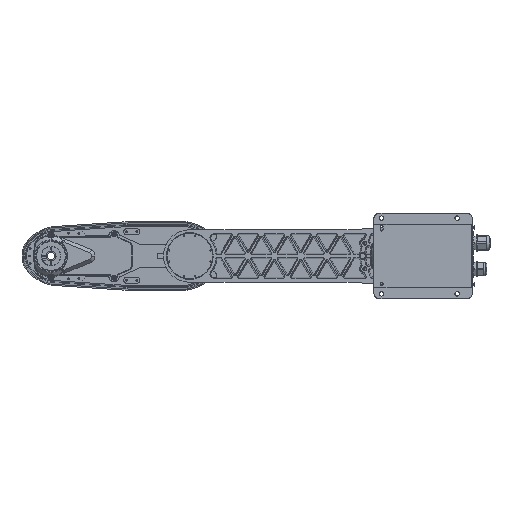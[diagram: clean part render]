
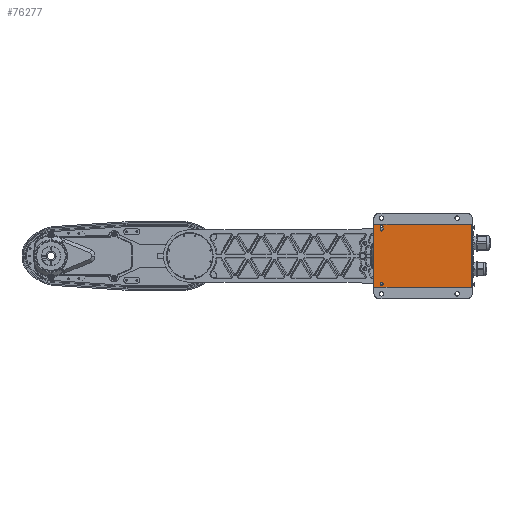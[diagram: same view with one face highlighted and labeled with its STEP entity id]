
A CAD part, front view. The second image highlights one B-rep face of the part: STEP entity #76277.
In plain terms, the highlighted planar face has unit normal (0, -1, 0).
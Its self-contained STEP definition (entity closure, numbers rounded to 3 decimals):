
#7 = ORIENTED_EDGE ( 'NONE', *, *, #47539, .T. ) ;
#1103 = AXIS2_PLACEMENT_3D ( 'NONE', #29106, #48956, #63581 ) ;
#2094 = VERTEX_POINT ( 'NONE', #72128 ) ;
#2254 = FACE_BOUND ( 'NONE', #56998, .T. ) ;
#3834 = CARTESIAN_POINT ( 'NONE',  ( -45., 1., -55. ) ) ;
#4108 = DIRECTION ( 'NONE',  ( 0., 0., -1. ) ) ;
#5278 = CARTESIAN_POINT ( 'NONE',  ( -48., 1., 57.5 ) ) ;
#6801 = EDGE_CURVE ( 'NONE', #48481, #51150, #40840, .T. ) ;
#7600 = LINE ( 'NONE', #16150, #12461 ) ;
#8868 = FACE_OUTER_BOUND ( 'NONE', #58991, .T. ) ;
#9655 = DIRECTION ( 'NONE',  ( 0., 0., -1. ) ) ;
#9773 = DIRECTION ( 'NONE',  ( 0., 0., 1. ) ) ;
#10626 = VERTEX_POINT ( 'NONE', #22793 ) ;
#11586 = LINE ( 'NONE', #17781, #23782 ) ;
#12315 = ORIENTED_EDGE ( 'NONE', *, *, #49098, .T. ) ;
#12461 = VECTOR ( 'NONE', #37443, 1000. ) ;
#15524 = DIRECTION ( 'NONE',  ( 1., 0., 0. ) ) ;
#16150 = CARTESIAN_POINT ( 'NONE',  ( -60., 1., -61.5 ) ) ;
#17781 = CARTESIAN_POINT ( 'NONE',  ( 135., 1., -61.5 ) ) ;
#18414 = EDGE_CURVE ( 'NONE', #65544, #10626, #7600, .T. ) ;
#20249 = LINE ( 'NONE', #84076, #90642 ) ;
#20724 = CIRCLE ( 'NONE', #1103, 3. ) ;
#20828 = ORIENTED_EDGE ( 'NONE', *, *, #72520, .T. ) ;
#21162 = EDGE_CURVE ( 'NONE', #65964, #2094, #20724, .T. ) ;
#22613 = FACE_BOUND ( 'NONE', #83538, .T. ) ;
#22793 = CARTESIAN_POINT ( 'NONE',  ( -60., 1., 61.5 ) ) ;
#23782 = VECTOR ( 'NONE', #53253, 1000. ) ;
#24627 = CIRCLE ( 'NONE', #92469, 3. ) ;
#27047 = VERTEX_POINT ( 'NONE', #38537 ) ;
#28247 = VERTEX_POINT ( 'NONE', #91809 ) ;
#28594 = CARTESIAN_POINT ( 'NONE',  ( -42., 1., 52.5 ) ) ;
#28915 = EDGE_CURVE ( 'NONE', #61868, #27047, #88725, .T. ) ;
#29106 = CARTESIAN_POINT ( 'NONE',  ( -45., 1., 57.5 ) ) ;
#29364 = VECTOR ( 'NONE', #83539, 1000. ) ;
#30617 = VERTEX_POINT ( 'NONE', #64468 ) ;
#33022 = CARTESIAN_POINT ( 'NONE',  ( -45., 1., 52.5 ) ) ;
#33474 = CARTESIAN_POINT ( 'NONE',  ( -60., 1., 61.5 ) ) ;
#33615 = CARTESIAN_POINT ( 'NONE',  ( -45., 1., 52.5 ) ) ;
#33652 = DIRECTION ( 'NONE',  ( 0., 1., 0. ) ) ;
#36485 = ORIENTED_EDGE ( 'NONE', *, *, #37380, .F. ) ;
#36826 = PLANE ( 'NONE',  #39697 ) ;
#37380 = EDGE_CURVE ( 'NONE', #10626, #51150, #48076, .T. ) ;
#37443 = DIRECTION ( 'NONE',  ( 0., 0., 1. ) ) ;
#38537 = CARTESIAN_POINT ( 'NONE',  ( -45., 1., 49.5 ) ) ;
#39697 = AXIS2_PLACEMENT_3D ( 'NONE', #66540, #87332, #15524 ) ;
#40211 = DIRECTION ( 'NONE',  ( 0., 1., 0. ) ) ;
#40529 = DIRECTION ( 'NONE',  ( 0., 1., 0. ) ) ;
#40840 = LINE ( 'NONE', #74508, #48747 ) ;
#41003 = VERTEX_POINT ( 'NONE', #91380 ) ;
#41724 = ORIENTED_EDGE ( 'NONE', *, *, #18414, .F. ) ;
#43021 = AXIS2_PLACEMENT_3D ( 'NONE', #33022, #61811, #90620 ) ;
#43680 = CIRCLE ( 'NONE', #82959, 3. ) ;
#43824 = ORIENTED_EDGE ( 'NONE', *, *, #6801, .T. ) ;
#45653 = EDGE_CURVE ( 'NONE', #48481, #65544, #11586, .T. ) ;
#47539 = EDGE_CURVE ( 'NONE', #2094, #61868, #52721, .T. ) ;
#48076 = LINE ( 'NONE', #33474, #29364 ) ;
#48481 = VERTEX_POINT ( 'NONE', #56861 ) ;
#48747 = VECTOR ( 'NONE', #9773, 1000. ) ;
#48956 = DIRECTION ( 'NONE',  ( 0., 1., 0. ) ) ;
#49098 = EDGE_CURVE ( 'NONE', #30617, #65964, #20249, .T. ) ;
#50293 = EDGE_CURVE ( 'NONE', #28247, #41003, #24627, .T. ) ;
#51018 = ORIENTED_EDGE ( 'NONE', *, *, #21162, .T. ) ;
#51150 = VERTEX_POINT ( 'NONE', #60612 ) ;
#52721 = LINE ( 'NONE', #81504, #73697 ) ;
#53253 = DIRECTION ( 'NONE',  ( -1., 0., 0. ) ) ;
#54921 = DIRECTION ( 'NONE',  ( 0., 0., 1. ) ) ;
#55773 = DIRECTION ( 'NONE',  ( 0., 0., -1. ) ) ;
#56861 = CARTESIAN_POINT ( 'NONE',  ( 135., 1., -61.5 ) ) ;
#56998 = EDGE_LOOP ( 'NONE', ( #66079, #67171, #12315, #51018, #7 ) ) ;
#58991 = EDGE_LOOP ( 'NONE', ( #76873, #43824, #36485, #41724 ) ) ;
#59652 = EDGE_CURVE ( 'NONE', #27047, #30617, #77698, .T. ) ;
#60612 = CARTESIAN_POINT ( 'NONE',  ( 135., 1., 61.5 ) ) ;
#61811 = DIRECTION ( 'NONE',  ( 0., 1., 0. ) ) ;
#61868 = VERTEX_POINT ( 'NONE', #28594 ) ;
#63581 = DIRECTION ( 'NONE',  ( -1., 0., 0. ) ) ;
#64468 = CARTESIAN_POINT ( 'NONE',  ( -48., 1., 52.5 ) ) ;
#65544 = VERTEX_POINT ( 'NONE', #83079 ) ;
#65964 = VERTEX_POINT ( 'NONE', #5278 ) ;
#66079 = ORIENTED_EDGE ( 'NONE', *, *, #28915, .T. ) ;
#66540 = CARTESIAN_POINT ( 'NONE',  ( 135., 1., 61.5 ) ) ;
#67171 = ORIENTED_EDGE ( 'NONE', *, *, #59652, .T. ) ;
#72128 = CARTESIAN_POINT ( 'NONE',  ( -42., 1., 57.5 ) ) ;
#72520 = EDGE_CURVE ( 'NONE', #41003, #28247, #43680, .T. ) ;
#73697 = VECTOR ( 'NONE', #9655, 1000. ) ;
#74508 = CARTESIAN_POINT ( 'NONE',  ( 135., 1., -61.5 ) ) ;
#76277 = ADVANCED_FACE ( 'NONE', ( #8868, #22613, #2254 ), #36826, .F. ) ;
#76873 = ORIENTED_EDGE ( 'NONE', *, *, #45653, .F. ) ;
#77168 = ORIENTED_EDGE ( 'NONE', *, *, #50293, .T. ) ;
#77698 = CIRCLE ( 'NONE', #43021, 3. ) ;
#81504 = CARTESIAN_POINT ( 'NONE',  ( -42., 1., 57.5 ) ) ;
#82959 = AXIS2_PLACEMENT_3D ( 'NONE', #84439, #40529, #4108 ) ;
#83079 = CARTESIAN_POINT ( 'NONE',  ( -60., 1., -61.5 ) ) ;
#83538 = EDGE_LOOP ( 'NONE', ( #20828, #77168 ) ) ;
#83539 = DIRECTION ( 'NONE',  ( 1., 0., 0. ) ) ;
#84076 = CARTESIAN_POINT ( 'NONE',  ( -48., 1., 52.5 ) ) ;
#84439 = CARTESIAN_POINT ( 'NONE',  ( -45., 1., -55. ) ) ;
#87332 = DIRECTION ( 'NONE',  ( 0., 1., 0. ) ) ;
#88725 = CIRCLE ( 'NONE', #91712, 3. ) ;
#90620 = DIRECTION ( 'NONE',  ( 0., 0., -1. ) ) ;
#90642 = VECTOR ( 'NONE', #92038, 1000. ) ;
#91380 = CARTESIAN_POINT ( 'NONE',  ( -45., 1., -58. ) ) ;
#91712 = AXIS2_PLACEMENT_3D ( 'NONE', #33615, #40211, #55773 ) ;
#91809 = CARTESIAN_POINT ( 'NONE',  ( -45., 1., -52. ) ) ;
#92038 = DIRECTION ( 'NONE',  ( 0., 0., 1. ) ) ;
#92469 = AXIS2_PLACEMENT_3D ( 'NONE', #3834, #33652, #54921 ) ;
